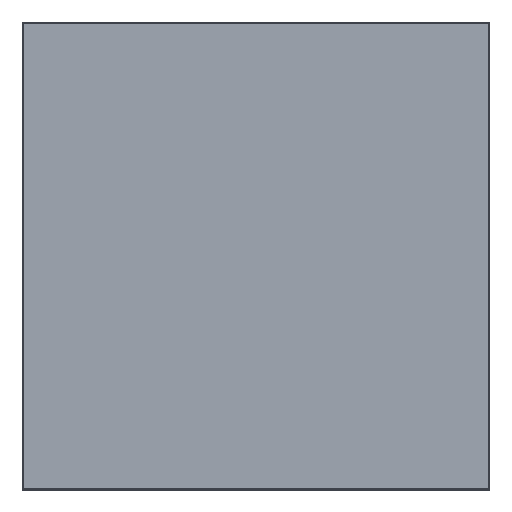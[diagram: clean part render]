
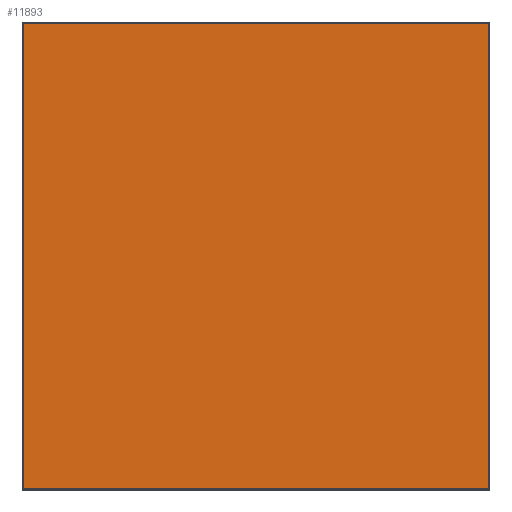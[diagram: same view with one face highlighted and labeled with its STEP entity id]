
A CAD part, top view. The second image highlights one B-rep face of the part: STEP entity #11893.
In plain terms, the highlighted planar face has unit normal (0, 0, 1).
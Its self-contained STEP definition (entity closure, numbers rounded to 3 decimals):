
#11854=CARTESIAN_POINT('',(0.,0.,20.));
#11855=DIRECTION('',(1.,0.,0.));
#11856=DIRECTION('',(0.,0.,1.));
#11857=AXIS2_PLACEMENT_3D('',#11854,#11856,#11855);
#11858=PLANE('',#11857);
#11859=CARTESIAN_POINT('',(298.5,-298.5,20.));
#11860=VERTEX_POINT('',#11859);
#11861=CARTESIAN_POINT('',(298.5,298.5,20.));
#11862=VERTEX_POINT('',#11861);
#11863=CARTESIAN_POINT('',(298.5,-298.5,20.));
#11864=DIRECTION('',(0.,1.,0.));
#11865=VECTOR('',#11864,597.);
#11866=LINE('',#11863,#11865);
#11867=EDGE_CURVE('',#11860,#11862,#11866,.T.);
#11868=ORIENTED_EDGE('E118',*,*,#11867,.T.);
#11869=CARTESIAN_POINT('',(-298.5,298.5,20.));
#11870=VERTEX_POINT('',#11869);
#11871=CARTESIAN_POINT('',(298.5,298.5,20.));
#11872=DIRECTION('',(-1.,0.,0.));
#11873=VECTOR('',#11872,597.);
#11874=LINE('',#11871,#11873);
#11875=EDGE_CURVE('',#11862,#11870,#11874,.T.);
#11876=ORIENTED_EDGE('E119',*,*,#11875,.T.);
#11877=CARTESIAN_POINT('',(-298.5,-298.5,20.));
#11878=VERTEX_POINT('',#11877);
#11879=CARTESIAN_POINT('',(-298.5,298.5,20.));
#11880=DIRECTION('',(0.,-1.,0.));
#11881=VECTOR('',#11880,597.);
#11882=LINE('',#11879,#11881);
#11883=EDGE_CURVE('',#11870,#11878,#11882,.T.);
#11884=ORIENTED_EDGE('E120',*,*,#11883,.T.);
#11885=CARTESIAN_POINT('',(-298.5,-298.5,20.));
#11886=DIRECTION('',(1.,0.,0.));
#11887=VECTOR('',#11886,597.);
#11888=LINE('',#11885,#11887);
#11889=EDGE_CURVE('',#11878,#11860,#11888,.T.);
#11890=ORIENTED_EDGE('E117',*,*,#11889,.T.);
#11891=EDGE_LOOP('',(#11868,#11876,#11884,#11890));
#11892=FACE_OUTER_BOUND('',#11891,.T.);
#11893=ADVANCED_FACE('F2',(#11892),#11858,.T.);
